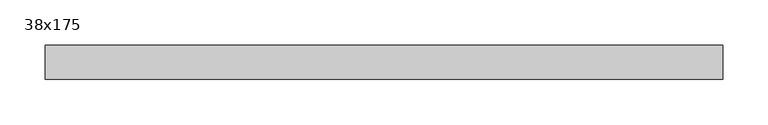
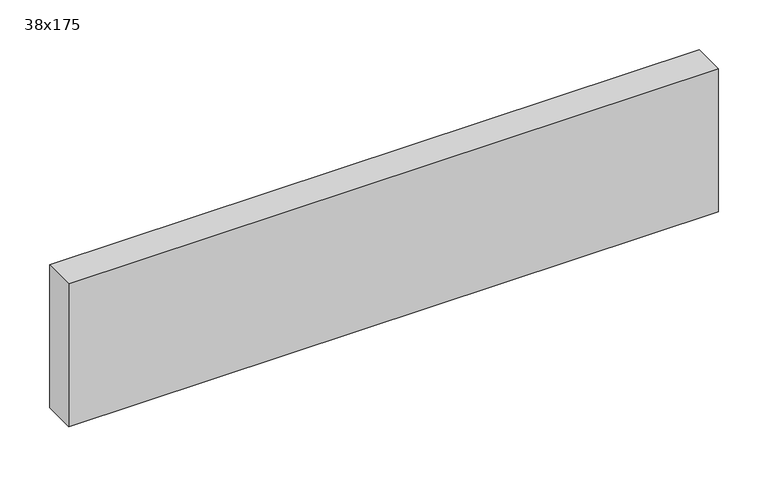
"""IFC4 building model written with IfcOpenShell, lengths in millimetres: beam geometry, Graded Timber : 38x175."""

from ifc_helpers import new_model, si_unit, frame, origin, place, context, project, spatial, polyline, outline, extrude, source, transform, mapped, element, save


def beam_38x175_4bd95a5e(model_context):
    return source(origin(), model_context, "Body", "SweptSolid", [
        extrude(outline(polyline([(376.5, 19.0), (376.5, -19.0), (-374.5, -19.0), (-374.5, 19.0), (376.5, 19.0)])), frame((0.0, 0.0, -87.5), z_axis=(0.0, 0.0, 1.0), x_axis=(1.0, 0.0, 0.0)), (0.0, 0.0, 1.0), 175.0),
    ])


if __name__ == "__main__":
    model = new_model("IFC4")
    model_context = context("Model", 3, world=origin())
    ifc_project = project(units=[si_unit("LENGTHUNIT", "METRE", prefix="MILLI")], contexts=[model_context])
    site = spatial("IfcSite", under=ifc_project)
    building = spatial("IfcBuilding", under=site)
    placement = place(None, origin())
    beam_38x175_shape = beam_38x175_4bd95a5e(model_context)
    element("IfcBeam", 1, ObjectType="Graded Timber : 38x175", at=placement, inside=building, context=model_context, shape_type="MappedRepresentation", body=[
        mapped(beam_38x175_shape, transform((0.0, 0.0, 0.0), x_axis=(1.0, 0.0, 0.0), y_axis=(0.0, 1.0, 0.0), z_axis=(0.0, 0.0, 1.0))),
    ])
    save(model, "model.ifc")
